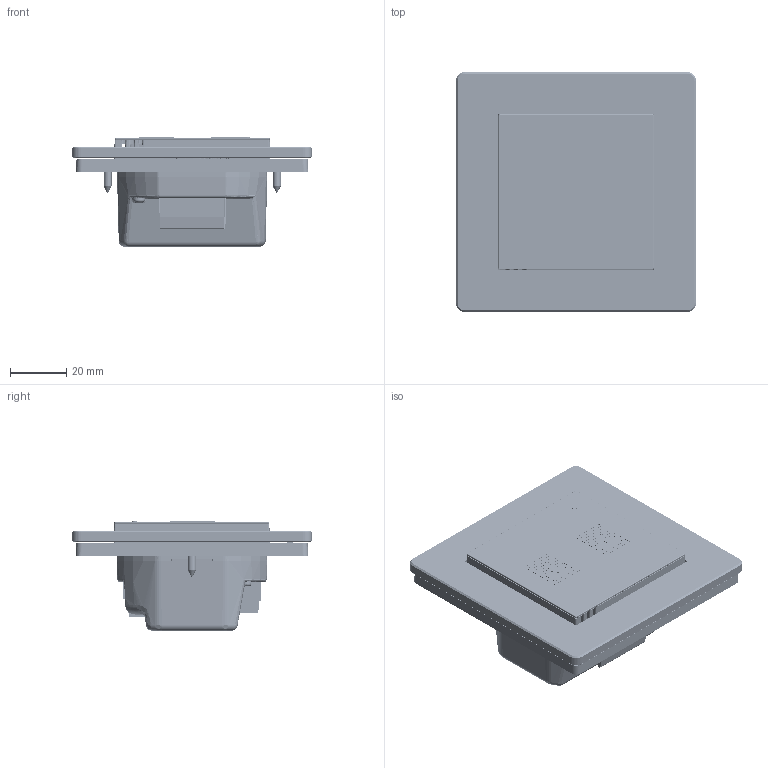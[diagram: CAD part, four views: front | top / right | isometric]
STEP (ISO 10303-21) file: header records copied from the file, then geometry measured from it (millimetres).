
FILE_DESCRIPTION(/* description */ (''),/* implementation_level */ '2;1');
FILE_NAME(/* name */ 'FZ-02m.step',/* time_stamp */ '2026-01-25T09:04:05+01:00',/* author */ (''),/* organization */ (''),/* preprocessor_version */ 'ST-DEVELOPER v20.1',/* originating_system */ 'Autodesk Translation Framework v14.24.0.0',/* authorisation */ '');
FILE_SCHEMA (('AUTOMOTIVE_DESIGN { 1 0 10303 214 3 1 1 }'));
Products named in the file (27): wersja 1.3_eink; microUSB_pionowe; Gniazdo rast2; spod1; Plytka1.2; Led_izolator_ramka_01; szkło_eink; Gora2; FS-02 FARMA v1; ramka_1; PODSTAWA RAMKI SZKLANEJ 1; logo sinum-tech; szkło RAMKI SZKLANEJ 1; 3m_01; przełącznik szklany; tył klawisz; OP-1398_C; Blacha1.2; DIN ISO 7049 - C-H ST2.2 x 9.5 - C - H; OP-1399_K; FOB08D880ED1gk8; DG128-5.0-02P-14-00AH; tht prosty L20; tht prosty; PODSWIETLENIE; Wkręt samogwintujący PN-EN ISO 7050 - ST 2.9 x 
9.5 - C - H Stal 8.8 Płaszczyzna v1; Komponent26
Assembly tree (44 placements, depth 4):
  wersja 1.3_eink
    tht prosty L20  x8
    tht prosty  x8
    microUSB_pionowe
    Gniazdo rast2
    spod1
    Plytka1.2
    Led_izolator_ramka_01
    szkło_eink
    Gora2
    PODSWIETLENIE  x2
    FS-02 FARMA v1
    ramka_1
      PODSTAWA RAMKI SZKLANEJ 1
      logo sinum-tech
      szkło RAMKI SZKLANEJ 1
      3m_01
    Wkręt samogwintujący PN-EN ISO 7050 - ST 2.9 x 
9.5 - C - H Stal 8.8 Płaszczyzna v1  x2
    przełącznik szklany
      tył klawisz
        OP-1398_C
        Blacha1.2
        DIN ISO 7049 - C-H ST2.2 x 9.5 - C - H  x2
      OP-1399_K
      DG128-5.0-02P-14-00AH  x2
      FOB08D880ED1gk8
    Komponent26
Bounding box: 85 x 85 x 38.72 mm (x, y, z)
Volume: 69373.3 mm3; surface area: 97900.5 mm2
Topology: 63 solids, 63 shells, 9266 faces, 25614 edges, 16757 vertices
Faces by surface type: plane 3736, cone 3400, bspline 1204, cylinder 665, torus 196, sphere 65
Full cylindrical faces by diameter (mm): 0.25 x1, 0.437 x1, 0.601 x1, 0.8 x4, 1 x5, 1.7 x2, 2 x1, 2.2 x2, 2.4 x2, 2.83 x2, 2.9 x3, 3.5 x4, 4 x4, 4.099 x6, 4.1 x8, 5.5 x2
Entity records: 225500 total; most frequent: CARTESIAN_POINT 68242, ORIENTED_EDGE 32590, DIRECTION 29281, EDGE_CURVE 16295, VERTEX_POINT 11659, LINE 10505, VECTOR 10505, AXIS2_PLACEMENT_3D 9388
